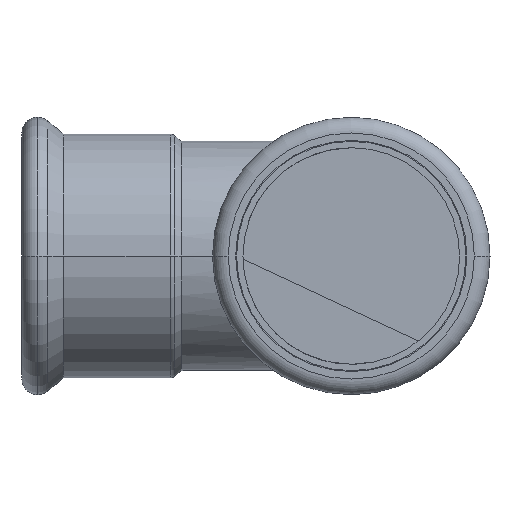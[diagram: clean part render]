
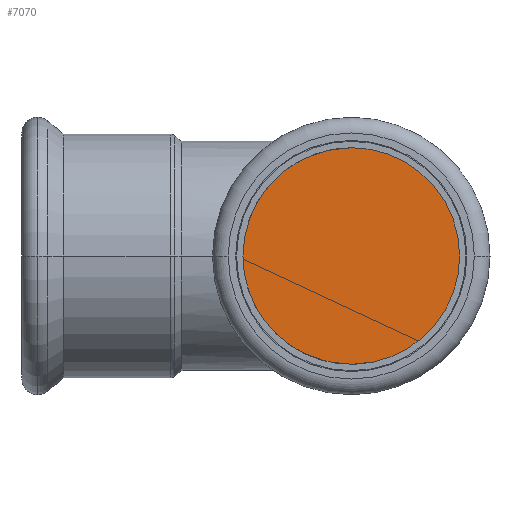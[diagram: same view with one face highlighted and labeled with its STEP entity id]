
A CAD part, left-side view. The second image highlights one B-rep face of the part: STEP entity #7070.
In plain terms, the highlighted planar face has unit normal (1, 0, 0).
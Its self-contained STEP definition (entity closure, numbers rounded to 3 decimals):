
#5620=CARTESIAN_POINT('',(63.844,180.695,
0.));
#5630=VERTEX_POINT('',#5620);
#5720=CARTESIAN_POINT('',(63.844,126.695,0.));
#5730=VERTEX_POINT('',#5720);
#5760=CARTESIAN_POINT('',(63.844,153.695,0.));
#5770=DIRECTION('',(-1.,0.,0.));
#5780=DIRECTION('',(0.,1.,0.));
#5790=AXIS2_PLACEMENT_3D('',#5760,#5770,#5780);
#5800=CIRCLE('',#5790,27.);
#5810=EDGE_CURVE('',#5730,#5630,#5800,.T.);
#6970=CARTESIAN_POINT('',(63.844,179.833,-0.975
));
#6980=DIRECTION('',(1.,0.,0.));
#6990=DIRECTION('',(0.,1.,0.));
#7000=AXIS2_PLACEMENT_3D('',#6970,#6980,#6990);
#7010=PLANE('',#7000);
#7020=EDGE_CURVE('',#5630,#5730,#5800,.T.);
#7030=ORIENTED_EDGE('',*,*,#7020,.T.);
#7040=ORIENTED_EDGE('',*,*,#5810,.T.);
#7050=EDGE_LOOP('',(#7040,#7030));
#7060=FACE_OUTER_BOUND('',#7050,.T.);
#7070=ADVANCED_FACE('',(#7060),#7010,.T.);
